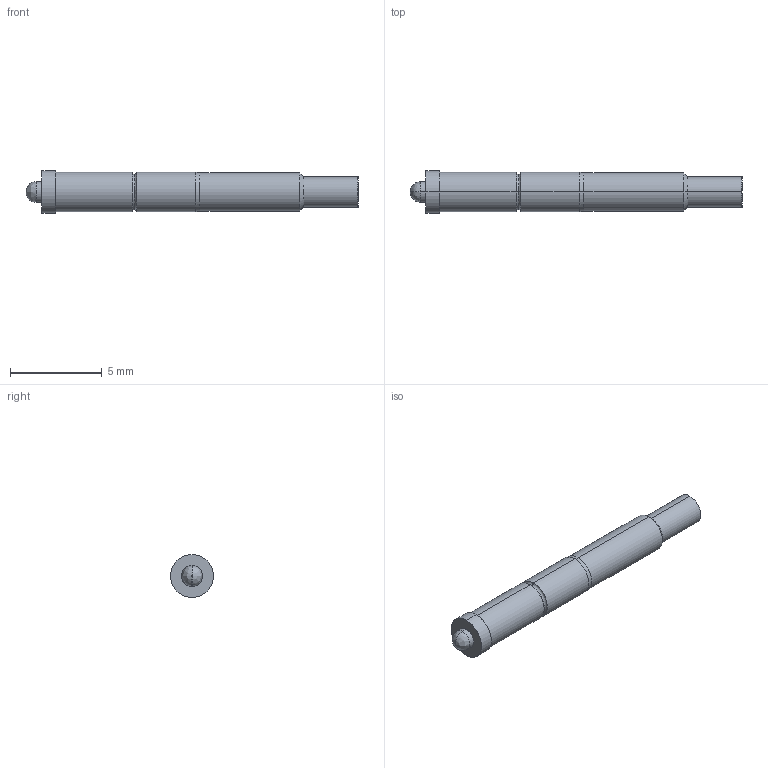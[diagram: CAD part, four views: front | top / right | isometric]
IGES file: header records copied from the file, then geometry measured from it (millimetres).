
Start section: SolidWorks IGES file using analytic representation for surfaces
Global section: file name: O:\PYLON\IGES FILES\F-S\F-S-R REC'D.IGS; native system: SolidWorks 2015; preprocessor: SolidWorks 2015; author: kgolden; date: 171024.100918; units: inch
Bounding box: 18.14 x 2.34 x 2.34 mm (x, y, z)
Surface area: 135.1 mm2 (no closed solid volume)
Topology: 0 solids, 0 shells, 30 faces, 264 edges, 262 vertices
Faces by surface type: revolution 20, bspline 10
